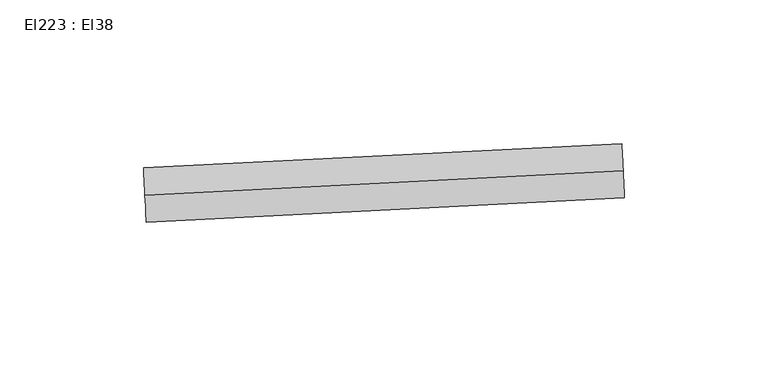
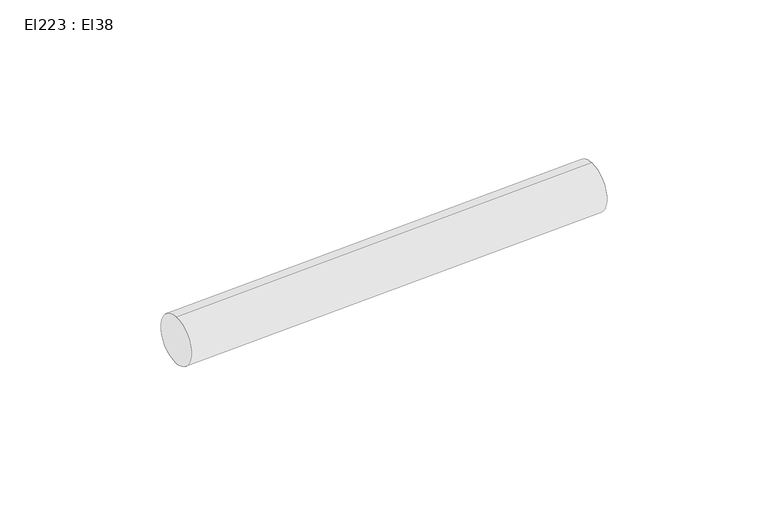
"""IFC4 building model written with IfcOpenShell, lengths in millimetres: cable carrier segment geometry, El223 : El38."""

from ifc_helpers import new_model, si_unit, point, frame, frame_2d, origin, place, context, project, spatial, circle_curve, trimmed, segment, composite_curve, outline, extrude, source, transform, mapped, element, save


def el223_el38_db877512(model_context):
    return source(origin(), model_context, "Body", "SweptSolid", [
        extrude(outline(composite_curve([segment(trimmed(circle_curve(frame_2d((0.0, -9.5)), 9.5), [point((0.0, -19.0))], [point((0.0, 0.0))], False, "CARTESIAN"), True, "CONTINUOUS"), segment(trimmed(circle_curve(frame_2d((0.0, -9.5)), 9.5), [point((0.0, 0.0))], [point((0.0, -19.0))], False, "CARTESIAN"), True, "CONTINUOUS")], self_intersect=False)), frame((4152.6700511, 6757.2811145, 2709.5), z_axis=(0.9987114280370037, 0.050749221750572, 0.0), x_axis=(-0.050749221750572, 0.9987114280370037, 0.0)), (0.0, 0.0, 1.0), 166.744),
    ])


if __name__ == "__main__":
    model = new_model("IFC4")
    model_context = context("Model", 3, world=origin())
    ifc_project = project(units=[si_unit("LENGTHUNIT", "METRE", prefix="MILLI")], contexts=[model_context])
    site = spatial("IfcSite", under=ifc_project)
    building = spatial("IfcBuilding", under=site)
    placement = place(None, origin())
    el223_el38_shape = el223_el38_db877512(model_context)
    element("IfcCableCarrierSegment", 1, ObjectType="El223 : El38", at=placement, inside=building, context=model_context, shape_type="MappedRepresentation", body=[
        mapped(el223_el38_shape, transform((0.0, 0.0, 0.0), x_axis=(1.0, 0.0, 0.0), y_axis=(0.0, 1.0, 0.0), z_axis=(0.0, 0.0, 1.0))),
    ])
    save(model, "model.ifc")
